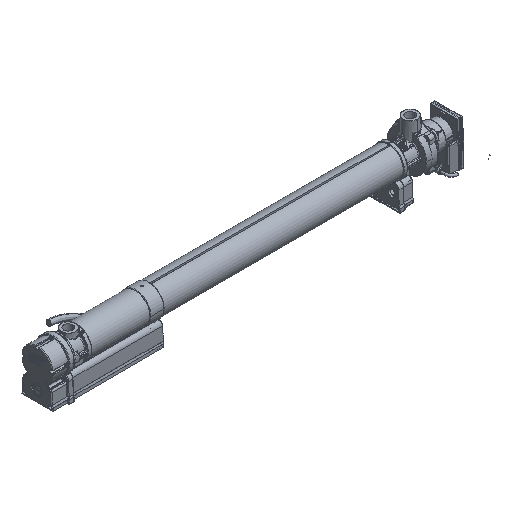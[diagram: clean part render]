
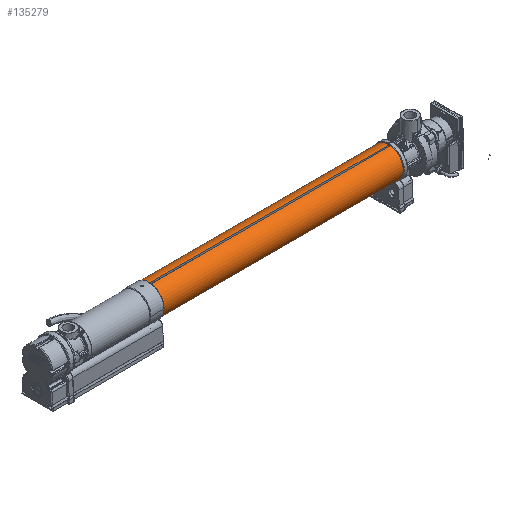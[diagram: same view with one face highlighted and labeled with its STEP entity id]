
A CAD part, isometric view. The second image highlights one B-rep face of the part: STEP entity #135279.
In plain terms, the highlighted cylindrical face has radius 37.5 mm (diameter 75 mm), a partial arc.
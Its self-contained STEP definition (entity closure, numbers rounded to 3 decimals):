
#7661 = DIRECTION ( 'NONE',  ( -1., 0., 0. ) ) ;
#27822 = CARTESIAN_POINT ( 'NONE',  ( 0., 0., 55.171 ) ) ;
#28744 = CARTESIAN_POINT ( 'NONE',  ( 0., 0., -261.591 ) ) ;
#36459 = CARTESIAN_POINT ( 'NONE',  ( -37.5, 0., -553.829 ) ) ;
#38973 = DIRECTION ( 'NONE',  ( 0., 0., -1. ) ) ;
#45193 = EDGE_CURVE ( 'NONE', #135295, #119568, #175033, .T. ) ;
#70259 = CARTESIAN_POINT ( 'NONE',  ( 0., 0., -553.829 ) ) ;
#74568 = VERTEX_POINT ( 'NONE', #263690 ) ;
#80666 = VECTOR ( 'NONE', #128751, 1000. ) ;
#84028 = EDGE_CURVE ( 'NONE', #74568, #183351, #268746, .T. ) ;
#97112 = DIRECTION ( 'NONE',  ( 0., 0., 1. ) ) ;
#114197 = AXIS2_PLACEMENT_3D ( 'NONE', #27822, #301610, #270419 ) ;
#119568 = VERTEX_POINT ( 'NONE', #36459 ) ;
#127674 = AXIS2_PLACEMENT_3D ( 'NONE', #70259, #38973, #7661 ) ;
#128334 = CARTESIAN_POINT ( 'NONE',  ( -37.5, 0., 55.171 ) ) ;
#128751 = DIRECTION ( 'NONE',  ( 0., 0., 1. ) ) ;
#133869 = FACE_OUTER_BOUND ( 'NONE', #260135, .T. ) ;
#134920 = ORIENTED_EDGE ( 'NONE', *, *, #185045, .T. ) ;
#135279 = ADVANCED_FACE ( 'NONE', ( #133869 ), #165304, .T. ) ;
#135295 = VERTEX_POINT ( 'NONE', #295168 ) ;
#149894 = VECTOR ( 'NONE', #97112, 1000. ) ;
#157400 = AXIS2_PLACEMENT_3D ( 'NONE', #28744, #208765, #177548 ) ;
#159532 = LINE ( 'NONE', #128334, #149894 ) ;
#159953 = CARTESIAN_POINT ( 'NONE',  ( -37.357, 3.268, 55.171 ) ) ;
#165304 = CYLINDRICAL_SURFACE ( 'NONE', #157400, 37.5 ) ;
#175033 = CIRCLE ( 'NONE', #127674, 37.5 ) ;
#177548 = DIRECTION ( 'NONE',  ( -1., 0., 0. ) ) ;
#183351 = VERTEX_POINT ( 'NONE', #227548 ) ;
#185045 = EDGE_CURVE ( 'NONE', #135295, #74568, #191158, .T. ) ;
#189886 = ORIENTED_EDGE ( 'NONE', *, *, #84028, .T. ) ;
#191158 = LINE ( 'NONE', #159953, #80666 ) ;
#204015 = ORIENTED_EDGE ( 'NONE', *, *, #45193, .F. ) ;
#208765 = DIRECTION ( 'NONE',  ( 0., 0., -1. ) ) ;
#224794 = ORIENTED_EDGE ( 'NONE', *, *, #230763, .F. ) ;
#227548 = CARTESIAN_POINT ( 'NONE',  ( -37.5, 0., 55.171 ) ) ;
#230763 = EDGE_CURVE ( 'NONE', #119568, #183351, #159532, .T. ) ;
#260135 = EDGE_LOOP ( 'NONE', ( #204015, #134920, #189886, #224794 ) ) ;
#263690 = CARTESIAN_POINT ( 'NONE',  ( -37.357, 3.268, 55.171 ) ) ;
#268746 = CIRCLE ( 'NONE', #114197, 37.5 ) ;
#270419 = DIRECTION ( 'NONE',  ( -1., 0., 0. ) ) ;
#295168 = CARTESIAN_POINT ( 'NONE',  ( -37.357, 3.268, -553.829 ) ) ;
#301610 = DIRECTION ( 'NONE',  ( 0., 0., -1. ) ) ;
